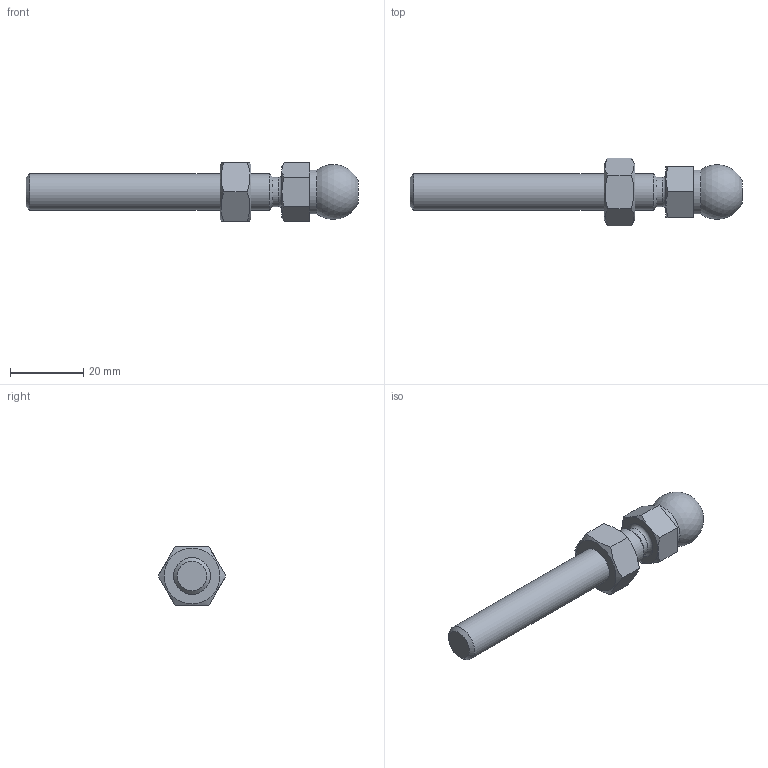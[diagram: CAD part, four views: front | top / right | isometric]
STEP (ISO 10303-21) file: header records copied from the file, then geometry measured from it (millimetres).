
FILE_DESCRIPTION(('STEP AP203'), '1');
FILE_NAME('A00020.110070_1', '', ('UNSPECIFIED'), ('UNSPECIFIED'), 'C3D Converter', 'C3D Toolkit', '');
FILE_SCHEMA(('CONFIG_CONTROL_DESIGN'));
Length unit declared in the file: millimetre
Products named in the file (2): A00020.110070
Assembly tree (1 placements, depth 2):
  A00020.110070
    (unnamed)
Bounding box: 90.8 x 18.48 x 16.17 mm (x, y, z)
Volume: 9829.9 mm3; surface area: 4367.9 mm2
Topology: 2 solids, 2 shells, 36 faces, 77 edges, 47 vertices
Faces by surface type: plane 18, cone 12, cylinder 4, sphere 1, torus 1
Full cylindrical faces by diameter (mm): 8 x1, 8.376 x1, 10 x1, 12 x1
Entity records: 1937 total; most frequent: CARTESIAN_POINT 954, DIRECTION 140, ORIENTED_EDGE 130, EDGE_CURVE 65, AXIS2_PLACEMENT_3D 61, EDGE_LOOP 52, VERTEX_POINT 47, ADVANCED_FACE 36
